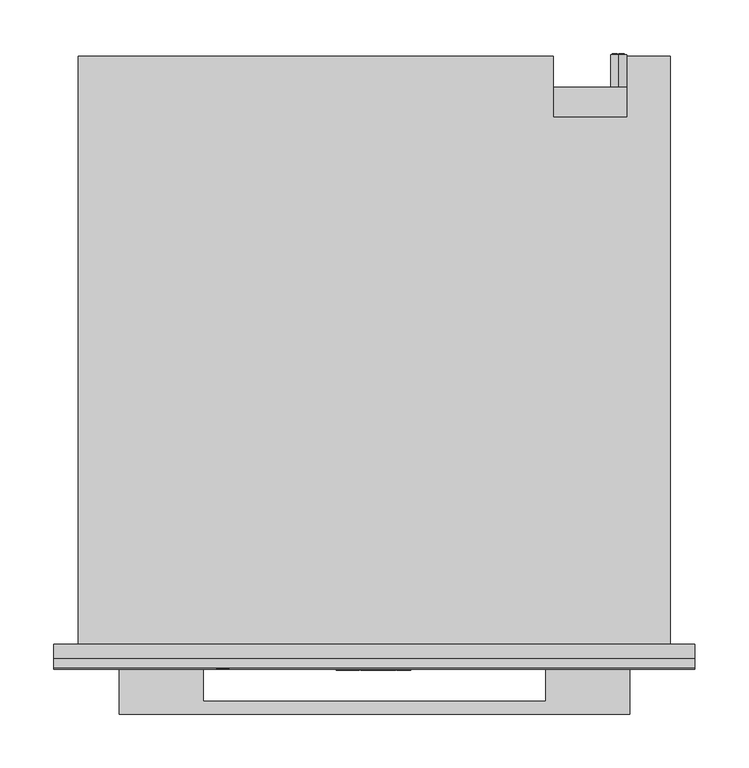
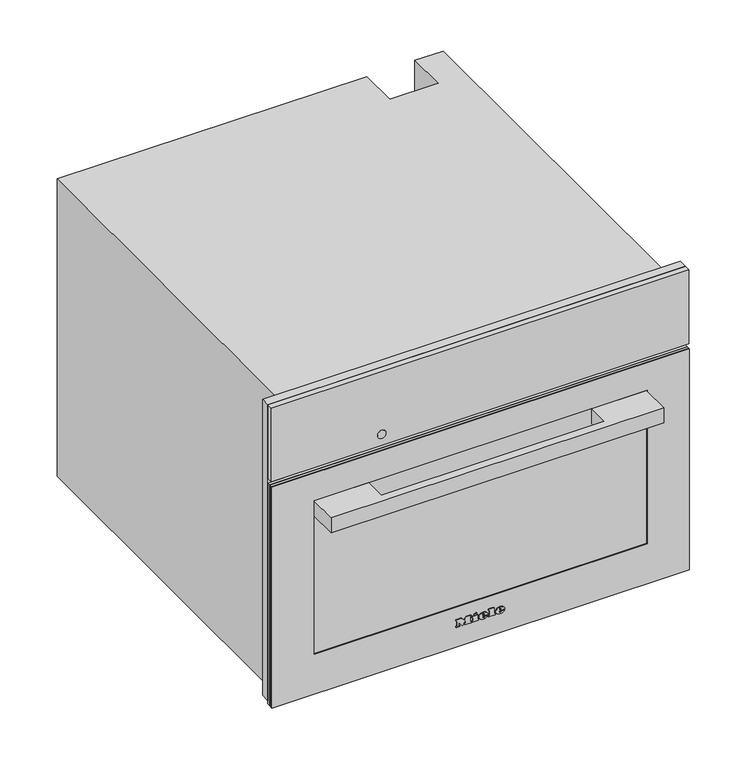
"""IFC4 building model written with IfcOpenShell, lengths in millimetres: proxy geometry, 12108000_BNE_DGC7340HCPro_EDST-C : 23734048_BNE_12108000_DGC7340HCPro_EDST-C."""

from ifc_helpers import new_model, si_unit, point, frame, frame_2d, origin, place, context, project, spatial, polyline, circle_curve, ellipse_curve, trimmed, segment, composite_curve, outline, extrude, faceted_brep, source, transform, mapped, element, save
from ifc_brep_helpers import plane_surface, cylinder_surface, revolved_surface, extruded_surface, advanced_brep


def specialty_equipment_fc3be20e(model_context):
    return source(origin(), model_context, "Body", "SolidModel", [
        extrude(outline(polyline([(455.0, 297.5), (455.0, -297.5), (9.0, -297.5), (9.0, 297.5), (455.0, 297.5)]), holes=[polyline([(344.0, -272.5), (344.0, 272.5), (27.0, 272.5), (27.0, -272.5), (344.0, -272.5)])]), frame((0.0, -13.0, 0.0), z_axis=(0.0, 1.0, 0.0), x_axis=(0.0, 0.0, 1.0)), (0.0, 0.0, 1.0), 13.0),
        advanced_brep(
        [(227.0, 547.0, 255.5), (227.0, 547.0, 240.5), (221.4098301, 547.0, 243.0), (225.5, 547.0, 243.0), (225.5, 547.0, 253.0), (224.4955303, 547.0, 253.0), (224.4955303, 547.0, 244.0), (221.0315043, 547.0, 244.0), (221.0315043, 547.0, 243.4582978), (232.0, 547.0, 243.0), (232.0, 547.0, 253.0), (227.0, 547.0, 253.0), (227.0, 547.0, 252.0), (231.0, 547.0, 252.0), (231.0, 547.0, 248.5), (228.0, 547.0, 248.5), (228.0, 547.0, 247.5), (231.0, 547.0, 247.5), (231.0, 547.0, 244.0), (227.0, 547.0, 244.0), (227.0, 547.0, 243.0), (227.0, 517.0, 240.5), (227.0, 517.0, 255.5), (232.0, 548.0, 253.0), (232.0, 548.0, 243.0), (227.0, 548.0, 243.0), (227.0, 548.0, 244.0), (231.0, 548.0, 244.0), (231.0, 548.0, 247.5), (228.0, 548.0, 247.5), (228.0, 548.0, 248.5), (231.0, 548.0, 248.5), (231.0, 548.0, 252.0), (227.0, 548.0, 252.0), (227.0, 548.0, 253.0), (225.5, 548.0, 243.0), (221.0315043, 548.0, 243.0), (221.0315043, 548.0, 244.0), (224.4955303, 548.0, 244.0), (224.4955303, 548.0, 253.0), (225.5, 548.0, 253.0), (221.0315043, 547.0, 243.0)],
        [
            (0, 1, circle_curve(frame((227.0, 547.0, 248.0), z_axis=(0.0, 1.0, 0.0), x_axis=(0.0, 0.0, 1.0)), 7.5)),
            (1, 2, circle_curve(frame((227.0, 547.0, 248.0), z_axis=(0.0, 1.0, 0.0), x_axis=(0.0, 0.0, 1.0)), 7.5)),
            (2, 3),
            (3, 4),
            (4, 5),
            (5, 6),
            (6, 7),
            (7, 8),
            (8, 0, circle_curve(frame((227.0, 547.0, 248.0), z_axis=(0.0, 1.0, 0.0), x_axis=(0.0, 0.0, 1.0)), 7.5)),
            (9, 10),
            (10, 11),
            (11, 12),
            (12, 13),
            (13, 14),
            (14, 15),
            (15, 16),
            (16, 17),
            (17, 18),
            (18, 19),
            (19, 20),
            (20, 9),
            (21, 22, circle_curve(frame((227.0, 517.0, 248.0), z_axis=(0.0, -1.0, 0.0), x_axis=(0.0, 0.0, 1.0)), 7.5)),
            (22, 21, circle_curve(frame((227.0, 517.0, 248.0), z_axis=(0.0, -1.0, 0.0), x_axis=(0.0, 0.0, 1.0)), 7.5)),
            (0, 22),
            (21, 1),
            (8, 2, circle_curve(frame((227.0, 547.0, 248.0), z_axis=(0.0, -1.0, 0.0), x_axis=(0.0, 0.0, 1.0)), 7.5)),
            (23, 24),
            (24, 25),
            (25, 26),
            (26, 27),
            (27, 28),
            (28, 29),
            (29, 30),
            (30, 31),
            (31, 32),
            (32, 33),
            (33, 34),
            (34, 23),
            (35, 36),
            (36, 37),
            (37, 38),
            (38, 39),
            (39, 40),
            (40, 35),
            (8, 41),
            (41, 2),
            (23, 10),
            (9, 24),
            (20, 25),
            (19, 26),
            (18, 27),
            (17, 28),
            (16, 29),
            (15, 30),
            (14, 31),
            (13, 32),
            (12, 33),
            (11, 34),
            (35, 3),
            (41, 36),
            (7, 37),
            (6, 38),
            (5, 39),
            (4, 40),
        ],
        [
            plane_surface(frame((227.0, 547.0, 255.5), z_axis=(0.0, 1.0, 0.0), x_axis=(1.0, 0.0, 0.0))),
            plane_surface(frame((227.0, 517.0, 255.5), z_axis=(0.0, -1.0, 0.0), x_axis=(-1.0, 0.0, 0.0))),
            cylinder_surface(frame((227.0, 547.0, 248.0), z_axis=(0.0, -1.0, 0.0), x_axis=(0.0, 0.0, 1.0)), 7.5),
            plane_surface(frame((232.0, 548.0, 253.0), z_axis=(0.0, 1.0, 0.0), x_axis=(0.0, 0.0, -1.0))),
            plane_surface(frame((232.0, 547.0, 253.0), z_axis=(0.0, -1.0, 0.0), x_axis=(0.0, 0.0, 1.0))),
            plane_surface(frame((232.0, 548.0, 253.0), z_axis=(1.0, 0.0, 0.0), x_axis=(0.0, -1.0, 0.0))),
            plane_surface(frame((232.0, 548.0, 243.0), z_axis=(0.0, 0.0, -1.0), x_axis=(0.0, -1.0, 0.0))),
            plane_surface(frame((227.0, 548.0, 243.0), z_axis=(-1.0, 0.0, 0.0), x_axis=(0.0, -1.0, 0.0))),
            plane_surface(frame((227.0, 548.0, 244.0), z_axis=(0.0, 0.0, 1.0), x_axis=(0.0, -1.0, 0.0))),
            plane_surface(frame((231.0, 548.0, 244.0), z_axis=(-1.0, 0.0, 0.0), x_axis=(0.0, -1.0, 0.0))),
            plane_surface(frame((231.0, 548.0, 247.5), z_axis=(0.0, 0.0, -1.0), x_axis=(0.0, -1.0, 0.0))),
            plane_surface(frame((228.0, 548.0, 247.5), z_axis=(-1.0, 0.0, 0.0), x_axis=(0.0, -1.0, 0.0))),
            plane_surface(frame((228.0, 548.0, 248.5), z_axis=(0.0, 0.0, 1.0), x_axis=(0.0, -1.0, 0.0))),
            plane_surface(frame((231.0, 548.0, 248.5), z_axis=(-1.0, 0.0, 0.0), x_axis=(0.0, -1.0, 0.0))),
            plane_surface(frame((231.0, 548.0, 252.0), z_axis=(0.0, 0.0, -1.0), x_axis=(0.0, -1.0, 0.0))),
            plane_surface(frame((227.0, 548.0, 252.0), z_axis=(-1.0, 0.0, 0.0), x_axis=(0.0, -1.0, 0.0))),
            plane_surface(frame((227.0, 548.0, 253.0), z_axis=(0.0, 0.0, 1.0), x_axis=(0.0, -1.0, 0.0))),
            plane_surface(frame((225.5, 548.0, 243.0), z_axis=(0.0, 0.0, -1.0), x_axis=(0.0, -1.0, 0.0))),
            plane_surface(frame((221.0315043, 548.0, 243.0), z_axis=(-1.0, 0.0, 0.0), x_axis=(0.0, -1.0, 0.0))),
            plane_surface(frame((221.0315043, 548.0, 244.0), z_axis=(0.0, 0.0, 1.0), x_axis=(0.0, -1.0, 0.0))),
            plane_surface(frame((224.4955303, 548.0, 244.0), z_axis=(-1.0, 0.0, 0.0), x_axis=(0.0, -1.0, 0.0))),
            plane_surface(frame((224.4955303, 548.0, 253.0), z_axis=(0.0, 0.0, 1.0), x_axis=(0.0, -1.0, 0.0))),
            plane_surface(frame((225.5, 548.0, 253.0), z_axis=(1.0, 0.0, 0.0), x_axis=(0.0, -1.0, 0.0))),
        ],
        [
            (0, [[1, 2, 3, 4, 5, 6, 7, 8, 9], [10, 11, 12, 13, 14, 15, 16, 17, 18, 19, 20, 21]]),
            (1, [[22, 23]]),
            (2, [[-1, 24, -22, 25]]),
            (2, [[-23, -24, -9, 26, -2, -25]]),
            (3, [[27, 28, 29, 30, 31, 32, 33, 34, 35, 36, 37, 38]]),
            (3, [[39, 40, 41, 42, 43, 44]]),
            (4, [[45, 46, -26]]),
            (5, [[-27, 47, -10, 48]]),
            (6, [[-28, -48, -21, 49]]),
            (7, [[-29, -49, -20, 50]]),
            (8, [[-30, -50, -19, 51]]),
            (9, [[-31, -51, -18, 52]]),
            (10, [[-32, -52, -17, 53]]),
            (11, [[-33, -53, -16, 54]]),
            (12, [[-34, -54, -15, 55]]),
            (13, [[-35, -55, -14, 56]]),
            (14, [[-36, -56, -13, 57]]),
            (15, [[-37, -57, -12, 58]]),
            (16, [[-38, -58, -11, -47]]),
            (17, [[-39, 59, -3, -46, 60]]),
            (18, [[-40, -60, -45, -8, 61]]),
            (19, [[-41, -61, -7, 62]]),
            (20, [[-42, -62, -6, 63]]),
            (21, [[-43, -63, -5, 64]]),
            (22, [[-44, -64, -4, -59]]),
        ],
    ),
        faceted_brep([(-275.0, 546.0, 0.0), (-275.0, 546.0, 448.0), (166.0, 546.0, 448.0), (166.0, 546.0, 0.0), (235.0, 546.0, 448.0), (275.0, 546.0, 448.0), (275.0, 546.0, 338.0), (235.0, 546.0, 338.0), (275.0, 0.0, 448.0), (-275.0, 0.0, 448.0), (-275.0, 0.0, 0.0), (275.0, 0.0, 0.0), (-272.5, 0.0, 344.0), (272.5, 0.0, 344.0), (272.5, 0.0, 27.0), (-272.5, 0.0, 27.0), (235.0, 489.0, 448.0), (166.0, 489.0, 448.0), (166.0, 517.0, 0.0), (275.0, 517.0, 0.0), (275.0, 517.0, 338.0), (272.5, 17.0, 344.0), (-272.5, 17.0, 344.0), (-272.5, 17.0, 27.0), (272.5, 17.0, 27.0), (231.0, 17.0, 307.0), (231.0, 17.0, 65.0), (-231.0, 17.0, 65.0), (-231.0, 17.0, 307.0), (231.0, 411.0, 307.0), (-231.0, 411.0, 307.0), (-231.0, 411.0, 65.0), (231.0, 411.0, 65.0), (235.0, 489.0, 337.0), (166.0, 489.0, 337.0), (166.0, 517.0, 337.0), (235.0, 517.0, 337.0), (235.0, 517.0, 338.0)], [[[0, 1, 2, 3]], [[4, 5, 6, 7]], [[8, 9, 10, 11], [12, 13, 14, 15]], [[9, 8, 5, 4, 16, 17, 2, 1]], [[1, 0, 10, 9]], [[11, 10, 0, 3, 18, 19]], [[8, 11, 19, 20, 6, 5]], [[21, 22, 23, 24], [25, 26, 27, 28]], [[22, 21, 13, 12]], [[23, 22, 12, 15]], [[24, 23, 15, 14]], [[21, 24, 14, 13]], [[29, 30, 31, 32]], [[29, 32, 26, 25]], [[32, 31, 27, 26]], [[31, 30, 28, 27]], [[30, 29, 25, 28]], [[16, 33, 34, 17]], [[17, 34, 35, 18, 3, 2]], [[34, 33, 36, 35]], [[33, 16, 4, 7, 37, 36]], [[37, 20, 19, 18, 35, 36]], [[20, 37, 7, 6]]]),
        advanced_brep(
        [(26.2998, -24.3, 36.7018), (26.2998, -24.3, 37.8532), (33.9264, -24.3, 37.8532), (20.6568, -24.3, 37.8532), (23.7918, -24.3, 34.0), (33.7326, -24.3, 36.7018), (30.2898, -24.3, 36.7018), (27.5766, -24.3, 35.425), (26.2998, -24.3, 39.3124), (26.2998, -24.3, 40.555), (28.2492, -24.3, 40.555), (28.2492, -24.3, 39.3124), (26.2998, -23.3, 36.7018), (27.5766, -23.3, 35.425), (30.2898, -23.3, 36.7018), (33.7326, -23.3, 36.7018), (23.7918, -23.3, 34.0), (20.6568, -23.3, 37.8532), (33.9264, -23.3, 37.8532), (26.2998, -23.3, 37.8532), (26.2998, -23.3, 39.3124), (28.2492, -23.3, 39.3124), (28.2492, -23.3, 40.555), (26.2998, -23.3, 40.555)],
        [
            (0, 1),
            (1, 2),
            (2, 3, ellipse_curve(frame((27.2916, -24.3, 37.8532), z_axis=(0.0, -1.0, 0.0), x_axis=(-1.0, 0.0, 0.0)), 6.6348, 5.4834)),
            (3, 4, circle_curve(frame((25.0686622, -24.3, 38.2408), z_axis=(0.0, -1.0, 0.0), x_axis=(0.0, 0.0, -1.0)), 4.4288556)),
            (4, 5, circle_curve(frame((27.1587808, -24.3, 41.2504), z_axis=(0.0, -1.0, 0.0), x_axis=(0.0, 0.0, -1.0)), 7.9940516)),
            (5, 6),
            (6, 7, circle_curve(frame((28.1338588, -24.3, 37.762), z_axis=(0.0, 1.0, 0.0), x_axis=(0.0, 0.0, -1.0)), 2.4025208)),
            (7, 0, circle_curve(frame((27.5766, -24.3, 36.7018), z_axis=(0.0, 1.0, 0.0), x_axis=(0.0, 0.0, -1.0)), 1.2768)),
            (8, 9),
            (9, 10, circle_curve(frame((27.2745, -24.3, 40.555), z_axis=(0.0, 1.0, 0.0), x_axis=(0.0, 0.0, -1.0)), 0.9747)),
            (10, 11),
            (11, 8),
            (12, 13, circle_curve(frame((27.5766, -23.3, 36.7018), z_axis=(0.0, -1.0, 0.0), x_axis=(0.0, 0.0, -1.0)), 1.2768)),
            (13, 14, circle_curve(frame((28.1338588, -23.3, 37.762), z_axis=(0.0, -1.0, 0.0), x_axis=(0.0, 0.0, -1.0)), 2.4025208)),
            (14, 15),
            (15, 16, circle_curve(frame((27.1587808, -23.3, 41.2504), z_axis=(0.0, 1.0, 0.0), x_axis=(0.0, 0.0, -1.0)), 7.9940516)),
            (16, 17, circle_curve(frame((25.0686622, -23.3, 38.2408), z_axis=(0.0, 1.0, 0.0), x_axis=(0.0, 0.0, -1.0)), 4.4288556)),
            (17, 18, ellipse_curve(frame((27.2916, -23.3, 37.8532), z_axis=(0.0, 1.0, 0.0), x_axis=(-1.0, 0.0, 0.0)), 6.6348, 5.4834)),
            (18, 19),
            (19, 12),
            (20, 21),
            (21, 22),
            (22, 23, circle_curve(frame((27.2745, -23.3, 40.555), z_axis=(0.0, -1.0, 0.0), x_axis=(0.0, 0.0, -1.0)), 0.9747)),
            (23, 20),
            (0, 12),
            (19, 1),
            (18, 2),
            (5, 15),
            (14, 6),
            (17, 3),
            (13, 7),
            (16, 4),
            (8, 20),
            (23, 9),
            (22, 10),
            (21, 11),
        ],
        [
            plane_surface(frame((26.2998, -24.3, 37.8532), z_axis=(0.0, -1.0, 0.0), x_axis=(0.0, 0.0, 1.0))),
            plane_surface(frame((26.2998, -23.3, 37.8532), z_axis=(0.0, 1.0, 0.0), x_axis=(0.0, 0.0, -1.0))),
            plane_surface(frame((26.2998, -24.3, 36.7018), z_axis=(1.0, 0.0, 0.0), x_axis=(0.0, 1.0, 0.0))),
            plane_surface(frame((26.2998, -24.3, 37.8532), z_axis=(0.0, 0.0, -1.0), x_axis=(0.0, 1.0, 0.0))),
            plane_surface(frame((33.7326, -24.3, 36.7018), z_axis=(0.0, 0.0, 1.0), x_axis=(0.0, 1.0, 0.0))),
            extruded_surface(trimmed(ellipse_curve(frame((27.2916, -22.3, 37.8532), z_axis=(0.0, -1.0, 0.0), x_axis=(-1.0, 0.0, 0.0)), 6.6348, 5.4834), [point((33.9264, -22.3, 37.8532))], [point((20.6568, -22.3, 37.8532))], True, "CARTESIAN"), (0.0, -1.0, 0.0), 1.0),
            revolved_surface(polyline([(28.1338588, -23.3, 35.3594792), (28.1338588, -24.3, 35.3594792)]), (28.1338588, -23.3, 37.762), (0.0, 1.0, 0.0)),
            revolved_surface(polyline([(27.5766, -23.3, 35.425), (27.5766, -24.3, 35.425)]), (27.5766, -23.3, 36.7018), (0.0, 1.0, 0.0)),
            cylinder_surface(frame((25.0686622, -23.3, 38.2408), z_axis=(0.0, -1.0, 0.0), x_axis=(0.0, 0.0, -1.0)), 4.4288556),
            cylinder_surface(frame((27.1587808, -23.3, 41.2504), z_axis=(0.0, -1.0, 0.0), x_axis=(0.0, 0.0, -1.0)), 7.9940516),
            plane_surface(frame((26.2998, -24.3, 39.3124), z_axis=(1.0, 0.0, 0.0), x_axis=(0.0, 1.0, 0.0))),
            revolved_surface(polyline([(27.2745, -23.3, 39.5803), (27.2745, -24.3, 39.5803)]), (27.2745, -23.3, 40.555), (0.0, 1.0, 0.0)),
            plane_surface(frame((28.2492, -24.3, 40.555), z_axis=(-1.0, 0.0, 0.0), x_axis=(0.0, 1.0, 0.0))),
            plane_surface(frame((28.2492, -24.3, 39.3124), z_axis=(0.0, 0.0, 1.0), x_axis=(0.0, 1.0, 0.0))),
        ],
        [
            (0, [[1, 2, 3, 4, 5, 6, 7, 8], [9, 10, 11, 12]]),
            (1, [[13, 14, 15, 16, 17, 18, 19, 20], [21, 22, 23, 24]]),
            (2, [[-1, 25, -20, 26]]),
            (3, [[-2, -26, -19, 27]]),
            (4, [[-6, 28, -15, 29]]),
            (5, [[-3, -27, -18, 30]]),
            (6, [[-7, -29, -14, 31]]),
            (7, [[-8, -31, -13, -25]]),
            (8, [[-4, -30, -17, 32]]),
            (9, [[-5, -32, -16, -28]]),
            (10, [[-9, 33, -24, 34]]),
            (11, [[-10, -34, -23, 35]]),
            (12, [[-11, -35, -22, 36]]),
            (13, [[-12, -36, -21, -33]]),
        ],
    ),
        advanced_brep(
        [(2.508, -24.3, 36.7018), (2.508, -24.3, 37.8532), (10.1346, -24.3, 37.8532), (-3.135, -24.3, 37.8532), (0.0, -24.3, 34.0), (9.9408, -24.3, 36.7018), (6.498, -24.3, 36.7018), (3.7848, -24.3, 35.425), (2.508, -24.3, 39.3124), (2.508, -24.3, 40.555), (4.4574, -24.3, 40.555), (4.4574, -24.3, 39.3124), (2.508, -23.3, 36.7018), (3.7848, -23.3, 35.425), (6.498, -23.3, 36.7018), (9.9408, -23.3, 36.7018), (0.0, -23.3, 34.0), (-3.135, -23.3, 37.8532), (10.1346, -23.3, 37.8532), (2.508, -23.3, 37.8532), (2.508, -23.3, 39.3124), (4.4574, -23.3, 39.3124), (4.4574, -23.3, 40.555), (2.508, -23.3, 40.555)],
        [
            (0, 1),
            (1, 2),
            (2, 3, ellipse_curve(frame((3.4998, -24.3, 37.8532), z_axis=(0.0, -1.0, 0.0), x_axis=(-1.0, 0.0, 0.0)), 6.6348, 5.4834)),
            (3, 4, circle_curve(frame((1.2768622, -24.3, 38.2408), z_axis=(0.0, -1.0, 0.0), x_axis=(0.0, 0.0, -1.0)), 4.4288556)),
            (4, 5, circle_curve(frame((3.3669808, -24.3, 41.2504), z_axis=(0.0, -1.0, 0.0), x_axis=(0.0, 0.0, -1.0)), 7.9940516)),
            (5, 6),
            (6, 7, circle_curve(frame((4.3420588, -24.3, 37.762), z_axis=(0.0, 1.0, 0.0), x_axis=(0.0, 0.0, -1.0)), 2.4025208)),
            (7, 0, circle_curve(frame((3.7848, -24.3, 36.7018), z_axis=(0.0, 1.0, 0.0), x_axis=(0.0, 0.0, -1.0)), 1.2768)),
            (8, 9),
            (9, 10, circle_curve(frame((3.4827, -24.3, 40.555), z_axis=(0.0, 1.0, 0.0), x_axis=(0.0, 0.0, -1.0)), 0.9747)),
            (10, 11),
            (11, 8),
            (12, 13, circle_curve(frame((3.7848, -23.3, 36.7018), z_axis=(0.0, -1.0, 0.0), x_axis=(0.0, 0.0, -1.0)), 1.2768)),
            (13, 14, circle_curve(frame((4.3420588, -23.3, 37.762), z_axis=(0.0, -1.0, 0.0), x_axis=(0.0, 0.0, -1.0)), 2.4025208)),
            (14, 15),
            (15, 16, circle_curve(frame((3.3669808, -23.3, 41.2504), z_axis=(0.0, 1.0, 0.0), x_axis=(0.0, 0.0, -1.0)), 7.9940516)),
            (16, 17, circle_curve(frame((1.2768622, -23.3, 38.2408), z_axis=(0.0, 1.0, 0.0), x_axis=(0.0, 0.0, -1.0)), 4.4288556)),
            (17, 18, ellipse_curve(frame((3.4998, -23.3, 37.8532), z_axis=(0.0, 1.0, 0.0), x_axis=(-1.0, 0.0, 0.0)), 6.6348, 5.4834)),
            (18, 19),
            (19, 12),
            (20, 21),
            (21, 22),
            (22, 23, circle_curve(frame((3.4827, -23.3, 40.555), z_axis=(0.0, -1.0, 0.0), x_axis=(0.0, 0.0, -1.0)), 0.9747)),
            (23, 20),
            (0, 12),
            (19, 1),
            (18, 2),
            (5, 15),
            (14, 6),
            (17, 3),
            (13, 7),
            (16, 4),
            (8, 20),
            (23, 9),
            (22, 10),
            (21, 11),
        ],
        [
            plane_surface(frame((2.508, -24.3, 37.8532), z_axis=(0.0, -1.0, 0.0), x_axis=(0.0, 0.0, 1.0))),
            plane_surface(frame((2.508, -23.3, 37.8532), z_axis=(0.0, 1.0, 0.0), x_axis=(0.0, 0.0, -1.0))),
            plane_surface(frame((2.508, -24.3, 36.7018), z_axis=(1.0, 0.0, 0.0), x_axis=(0.0, 1.0, 0.0))),
            plane_surface(frame((2.508, -24.3, 37.8532), z_axis=(0.0, 0.0, -1.0), x_axis=(0.0, 1.0, 0.0))),
            plane_surface(frame((9.9408, -24.3, 36.7018), z_axis=(0.0, 0.0, 1.0), x_axis=(0.0, 1.0, 0.0))),
            extruded_surface(trimmed(ellipse_curve(frame((3.4998, -22.3, 37.8532), z_axis=(0.0, -1.0, 0.0), x_axis=(-1.0, 0.0, 0.0)), 6.6348, 5.4834), [point((10.1346, -22.3, 37.8532))], [point((-3.135, -22.3, 37.8532))], True, "CARTESIAN"), (0.0, -1.0, 0.0), 1.0),
            revolved_surface(polyline([(4.3420588, -23.3, 35.3594792), (4.3420588, -24.3, 35.3594792)]), (4.3420588, -23.3, 37.762), (0.0, 1.0, 0.0)),
            revolved_surface(polyline([(3.7848, -23.3, 35.425), (3.7848, -24.3, 35.425)]), (3.7848, -23.3, 36.7018), (0.0, 1.0, 0.0)),
            cylinder_surface(frame((1.2768622, -23.3, 38.2408), z_axis=(0.0, -1.0, 0.0), x_axis=(0.0, 0.0, -1.0)), 4.4288556),
            cylinder_surface(frame((3.3669808, -23.3, 41.2504), z_axis=(0.0, -1.0, 0.0), x_axis=(0.0, 0.0, -1.0)), 7.9940516),
            plane_surface(frame((2.508, -24.3, 39.3124), z_axis=(1.0, 0.0, 0.0), x_axis=(0.0, 1.0, 0.0))),
            revolved_surface(polyline([(3.4827, -23.3, 39.5803), (3.4827, -24.3, 39.5803)]), (3.4827, -23.3, 40.555), (0.0, 1.0, 0.0)),
            plane_surface(frame((4.4574, -24.3, 40.555), z_axis=(-1.0, 0.0, 0.0), x_axis=(0.0, 1.0, 0.0))),
            plane_surface(frame((4.4574, -24.3, 39.3124), z_axis=(0.0, 0.0, 1.0), x_axis=(0.0, 1.0, 0.0))),
        ],
        [
            (0, [[1, 2, 3, 4, 5, 6, 7, 8], [9, 10, 11, 12]]),
            (1, [[13, 14, 15, 16, 17, 18, 19, 20], [21, 22, 23, 24]]),
            (2, [[-1, 25, -20, 26]]),
            (3, [[-2, -26, -19, 27]]),
            (4, [[-6, 28, -15, 29]]),
            (5, [[-3, -27, -18, 30]]),
            (6, [[-7, -29, -14, 31]]),
            (7, [[-8, -31, -13, -25]]),
            (8, [[-4, -30, -17, 32]]),
            (9, [[-5, -32, -16, -28]]),
            (10, [[-9, 33, -24, 34]]),
            (11, [[-10, -34, -23, 35]]),
            (12, [[-11, -35, -22, 36]]),
            (13, [[-12, -36, -21, -33]]),
        ],
    ),
        extrude(outline(polyline([(44.7274, -9.9522), (42.8806, -9.0858), (44.6818, -5.2212), (46.5286, -6.0762), (44.7274, -9.9522)])), frame((0.0, -24.3, 0.0), z_axis=(0.0, 1.0, 0.0), x_axis=(0.0, 0.0, 1.0)), (0.0, 0.0, 1.0), 1.0),
        extrude(outline(polyline([(42.6298, -12.768), (40.5892, -12.768), (40.5892, -11.4114), (35.9152, -11.4114), (35.9152, -12.768), (34.0, -12.768), (34.0, -3.7734), (35.9152, -3.7734), (35.9152, -5.0958), (42.6298, -5.0958), (42.6298, -12.768)])), frame((0.0, -24.3, 0.0), z_axis=(0.0, 1.0, 0.0), x_axis=(0.0, 0.0, 1.0)), (0.0, 0.0, 1.0), 1.0),
        extrude(outline(polyline([(43.5418, 10.773), (43.5418, 12.141), (35.9152, 12.141), (35.9152, 10.773), (34.0, 10.773), (34.0, 20.0184), (35.9152, 20.0184), (35.9152, 18.6162), (45.4, 18.6162), (45.4, 10.773), (43.5418, 10.773)])), frame((0.0, -24.3, 0.0), z_axis=(0.0, 1.0, 0.0), x_axis=(0.0, 0.0, 1.0)), (0.0, 0.0, 1.0), 1.0),
        extrude(outline(polyline([(43.5418, -35.4882), (43.5418, -34.1088), (35.9152, -34.1088), (35.9152, -35.4882), (34.0, -35.4882), (34.0, -30.4722), (35.9152, -30.4722), (35.9152, -31.8402), (40.7429247, -31.8402), (34.0, -26.7444), (40.9402223, -21.6258), (35.9152, -21.6258), (35.9152, -23.028), (34.0, -23.028), (34.0, -13.9308), (35.9152, -13.9308), (35.9152, -15.3786), (43.5418, -15.3786), (43.5418, -13.9308), (45.4, -13.9308), (45.4, -20.8734), (41.125, -24.2022), (45.4, -27.5424), (45.4, -35.4882), (43.5418, -35.4882)])), frame((0.0, -24.3, 0.0), z_axis=(0.0, 1.0, 0.0), x_axis=(0.0, 0.0, 1.0)), (0.0, 0.0, 1.0), 1.0),
        extrude(outline(polyline([(297.5, -22.0), (-297.5, -22.0), (-297.5, -13.0), (297.5, -13.0), (297.5, -22.0)])), frame((0.0, 0.0, 344.0), z_axis=(0.0, 0.0, 1.0), x_axis=(1.0, 0.0, 0.0)), (0.0, 0.0, 1.0), 111.0),
        extrude(outline(composite_curve([segment(trimmed(circle_curve(frame_2d((361.0, -140.5745637)), 6.0), [point((361.0, -146.5745637))], [point((361.0, -134.5745637))], False, "CARTESIAN"), True, "CONTINUOUS"), segment(trimmed(circle_curve(frame_2d((361.0, -140.5745637)), 6.0), [point((361.0, -134.5745637))], [point((361.0, -146.5745637))], False, "CARTESIAN"), True, "CONTINUOUS")], self_intersect=False)), frame((0.0, -22.5, 0.0), z_axis=(0.0, 1.0, 0.0), x_axis=(0.0, 0.0, 1.0)), (0.0, 0.0, 1.0), 1.0),
        extrude(outline(polyline([(297.5, -18.0), (-297.5, -18.0), (-297.5, -13.0), (297.5, -13.0), (297.5, -18.0)])), frame((0.0, 0.0, 4.0), z_axis=(0.0, 0.0, 1.0), x_axis=(1.0, 0.0, 0.0)), (0.0, 0.0, 1.0), 333.0),
        extrude(outline(polyline([(337.0, 297.5), (337.0, -297.5), (4.0, -297.5), (4.0, 297.5), (337.0, 297.5)]), holes=[polyline([(295.5, -237.5), (295.5, 237.5), (64.0, 237.5), (64.0, -237.5), (295.5, -237.5)])]), frame((0.0, -23.3, 0.0), z_axis=(0.0, 1.0, 0.0), x_axis=(0.0, 0.0, 1.0)), (0.0, 0.0, 1.0), 1.3),
        extrude(outline(polyline([(-159.0, -22.0), (-159.0, -53.0), (159.0, -53.0), (159.0, -22.0), (237.0, -22.0), (237.0, -65.0), (-237.0, -65.0), (-237.0, -22.0), (-159.0, -22.0)])), frame((0.0, 0.0, 272.0), z_axis=(0.0, 0.0, 1.0), x_axis=(1.0, 0.0, 0.0)), (0.0, 0.0, 1.0), 22.5),
        extrude(outline(polyline([(297.5, -22.0), (-297.5, -22.0), (-297.5, -18.0), (297.5, -18.0), (297.5, -22.0)])), frame((0.0, 0.0, 4.0), z_axis=(0.0, 0.0, 1.0), x_axis=(1.0, 0.0, 0.0)), (0.0, 0.0, 1.0), 333.0),
    ])


if __name__ == "__main__":
    model = new_model("IFC4")
    model_context = context("Model", 3, world=origin())
    ifc_project = project(units=[si_unit("LENGTHUNIT", "METRE", prefix="MILLI")], contexts=[model_context])
    site = spatial("IfcSite", under=ifc_project)
    building = spatial("IfcBuilding", under=site)
    placement = place(None, origin())
    specialty_equipment_shape = specialty_equipment_fc3be20e(model_context)
    element("IfcBuildingElementProxy", 1, Name="12108000_BNE_DGC7340HCPro_EDST-C : 23734048_BNE_12108000_DGC7340HCPro_EDST-C", ObjectType="12108000_BNE_DGC7340HCPro_EDST-C : 23734048_BNE_12108000_DGC7340HCPro_EDST-C", at=placement, inside=building, context=model_context, shape_type="MappedRepresentation", body=[
        mapped(specialty_equipment_shape, transform((0.0, 0.0, 0.0), x_axis=(1.0, 0.0, 0.0), y_axis=(0.0, 1.0, 0.0), z_axis=(0.0, 0.0, 1.0))),
    ])
    save(model, "model.ifc")
